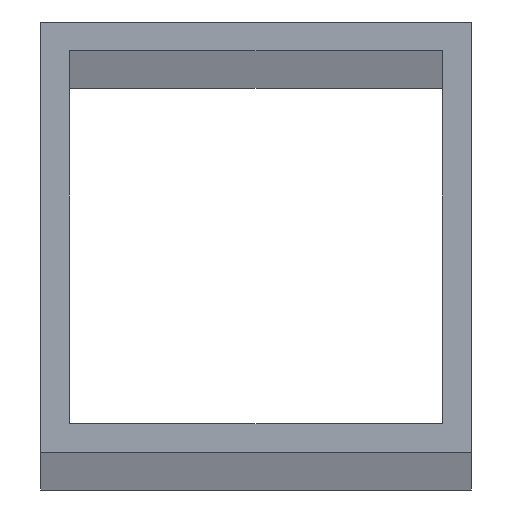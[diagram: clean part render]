
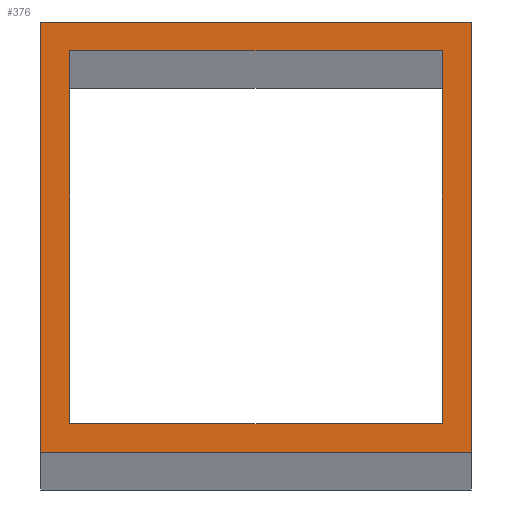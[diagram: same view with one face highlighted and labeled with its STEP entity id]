
A CAD part, top view. The second image highlights one B-rep face of the part: STEP entity #376.
In plain terms, the highlighted planar face has unit normal (0, 0, 1).
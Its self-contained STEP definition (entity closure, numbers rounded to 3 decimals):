
#32 = PLANE('',#33);
#33 = AXIS2_PLACEMENT_3D('',#34,#35,#36);
#34 = CARTESIAN_POINT('',(30.,-30.,0.));
#35 = DIRECTION('',(-0.,1.,-0.));
#36 = DIRECTION('',(1.,0.,0.));
#57 = VERTEX_POINT('',#58);
#58 = CARTESIAN_POINT('',(30.,-30.,3036.));
#72 = PLANE('',#73);
#73 = AXIS2_PLACEMENT_3D('',#74,#75,#76);
#74 = CARTESIAN_POINT('',(30.,30.,0.));
#75 = DIRECTION('',(-1.,-0.,-0.));
#76 = DIRECTION('',(0.,1.,0.));
#84 = EDGE_CURVE('',#85,#57,#87,.T.);
#85 = VERTEX_POINT('',#86);
#86 = CARTESIAN_POINT('',(-30.,-30.,3036.));
#87 = SURFACE_CURVE('',#88,(#92,#99),.PCURVE_S1.);
#88 = LINE('',#89,#90);
#89 = CARTESIAN_POINT('',(15.,-30.,3036.));
#90 = VECTOR('',#91,1.);
#91 = DIRECTION('',(1.,-0.,-0.));
#92 = PCURVE('',#32,#93);
#93 = DEFINITIONAL_REPRESENTATION('',(#94),#98);
#94 = LINE('',#95,#96);
#95 = CARTESIAN_POINT('',(-15.,-3036.));
#96 = VECTOR('',#97,1.);
#97 = DIRECTION('',(1.,-0.));
#98 = ( GEOMETRIC_REPRESENTATION_CONTEXT(2) 
PARAMETRIC_REPRESENTATION_CONTEXT() REPRESENTATION_CONTEXT('2D SPACE',''
  ) );
#99 = PCURVE('',#100,#105);
#100 = PLANE('',#101);
#101 = AXIS2_PLACEMENT_3D('',#102,#103,#104);
#102 = CARTESIAN_POINT('',(0.,0.,3036.));
#103 = DIRECTION('',(-0.,-0.,-1.));
#104 = DIRECTION('',(-1.,0.,0.));
#105 = DEFINITIONAL_REPRESENTATION('',(#106),#110);
#106 = LINE('',#107,#108);
#107 = CARTESIAN_POINT('',(-15.,-30.));
#108 = VECTOR('',#109,1.);
#109 = DIRECTION('',(-1.,0.));
#110 = ( GEOMETRIC_REPRESENTATION_CONTEXT(2) 
PARAMETRIC_REPRESENTATION_CONTEXT() REPRESENTATION_CONTEXT('2D SPACE',''
  ) );
#126 = PLANE('',#127);
#127 = AXIS2_PLACEMENT_3D('',#128,#129,#130);
#128 = CARTESIAN_POINT('',(-30.,-30.,0.));
#129 = DIRECTION('',(1.,-0.,-0.));
#130 = DIRECTION('',(0.,-1.,0.));
#202 = PLANE('',#203);
#203 = AXIS2_PLACEMENT_3D('',#204,#205,#206);
#204 = CARTESIAN_POINT('',(-30.,30.,0.));
#205 = DIRECTION('',(-0.,-1.,-0.));
#206 = DIRECTION('',(-1.,0.,0.));
#234 = PLANE('',#235);
#235 = AXIS2_PLACEMENT_3D('',#236,#237,#238);
#236 = CARTESIAN_POINT('',(26.,-26.,0.));
#237 = DIRECTION('',(-0.,1.,-0.));
#238 = DIRECTION('',(1.,0.,0.));
#262 = PLANE('',#263);
#263 = AXIS2_PLACEMENT_3D('',#264,#265,#266);
#264 = CARTESIAN_POINT('',(26.,26.,0.));
#265 = DIRECTION('',(-1.,-0.,-0.));
#266 = DIRECTION('',(0.,1.,0.));
#290 = PLANE('',#291);
#291 = AXIS2_PLACEMENT_3D('',#292,#293,#294);
#292 = CARTESIAN_POINT('',(-26.,26.,0.));
#293 = DIRECTION('',(-0.,-1.,-0.));
#294 = DIRECTION('',(-1.,0.,0.));
#316 = PLANE('',#317);
#317 = AXIS2_PLACEMENT_3D('',#318,#319,#320);
#318 = CARTESIAN_POINT('',(-26.,-26.,0.));
#319 = DIRECTION('',(1.,-0.,-0.));
#320 = DIRECTION('',(0.,-1.,0.));
#333 = EDGE_CURVE('',#334,#85,#336,.T.);
#334 = VERTEX_POINT('',#335);
#335 = CARTESIAN_POINT('',(-30.,30.,3036.));
#336 = SURFACE_CURVE('',#337,(#341,#348),.PCURVE_S1.);
#337 = LINE('',#338,#339);
#338 = CARTESIAN_POINT('',(-30.,-15.,3036.));
#339 = VECTOR('',#340,1.);
#340 = DIRECTION('',(0.,-1.,-0.));
#341 = PCURVE('',#126,#342);
#342 = DEFINITIONAL_REPRESENTATION('',(#343),#347);
#343 = LINE('',#344,#345);
#344 = CARTESIAN_POINT('',(-15.,-3036.));
#345 = VECTOR('',#346,1.);
#346 = DIRECTION('',(1.,-0.));
#347 = ( GEOMETRIC_REPRESENTATION_CONTEXT(2) 
PARAMETRIC_REPRESENTATION_CONTEXT() REPRESENTATION_CONTEXT('2D SPACE',''
  ) );
#348 = PCURVE('',#100,#349);
#349 = DEFINITIONAL_REPRESENTATION('',(#350),#354);
#350 = LINE('',#351,#352);
#351 = CARTESIAN_POINT('',(30.,-15.));
#352 = VECTOR('',#353,1.);
#353 = DIRECTION('',(-0.,-1.));
#354 = ( GEOMETRIC_REPRESENTATION_CONTEXT(2) 
PARAMETRIC_REPRESENTATION_CONTEXT() REPRESENTATION_CONTEXT('2D SPACE',''
  ) );
#376 = ADVANCED_FACE('',(#377,#425),#100,.F.);
#377 = FACE_BOUND('',#378,.T.);
#378 = EDGE_LOOP('',(#379,#380,#381,#404));
#379 = ORIENTED_EDGE('',*,*,#333,.T.);
#380 = ORIENTED_EDGE('',*,*,#84,.T.);
#381 = ORIENTED_EDGE('',*,*,#382,.T.);
#382 = EDGE_CURVE('',#57,#383,#385,.T.);
#383 = VERTEX_POINT('',#384);
#384 = CARTESIAN_POINT('',(30.,30.,3036.));
#385 = SURFACE_CURVE('',#386,(#390,#397),.PCURVE_S1.);
#386 = LINE('',#387,#388);
#387 = CARTESIAN_POINT('',(30.,15.,3036.));
#388 = VECTOR('',#389,1.);
#389 = DIRECTION('',(-0.,1.,-0.));
#390 = PCURVE('',#100,#391);
#391 = DEFINITIONAL_REPRESENTATION('',(#392),#396);
#392 = LINE('',#393,#394);
#393 = CARTESIAN_POINT('',(-30.,15.));
#394 = VECTOR('',#395,1.);
#395 = DIRECTION('',(-0.,1.));
#396 = ( GEOMETRIC_REPRESENTATION_CONTEXT(2) 
PARAMETRIC_REPRESENTATION_CONTEXT() REPRESENTATION_CONTEXT('2D SPACE',''
  ) );
#397 = PCURVE('',#72,#398);
#398 = DEFINITIONAL_REPRESENTATION('',(#399),#403);
#399 = LINE('',#400,#401);
#400 = CARTESIAN_POINT('',(-15.,-3036.));
#401 = VECTOR('',#402,1.);
#402 = DIRECTION('',(1.,-0.));
#403 = ( GEOMETRIC_REPRESENTATION_CONTEXT(2) 
PARAMETRIC_REPRESENTATION_CONTEXT() REPRESENTATION_CONTEXT('2D SPACE',''
  ) );
#404 = ORIENTED_EDGE('',*,*,#405,.T.);
#405 = EDGE_CURVE('',#383,#334,#406,.T.);
#406 = SURFACE_CURVE('',#407,(#411,#418),.PCURVE_S1.);
#407 = LINE('',#408,#409);
#408 = CARTESIAN_POINT('',(-15.,30.,3036.));
#409 = VECTOR('',#410,1.);
#410 = DIRECTION('',(-1.,-0.,-0.));
#411 = PCURVE('',#100,#412);
#412 = DEFINITIONAL_REPRESENTATION('',(#413),#417);
#413 = LINE('',#414,#415);
#414 = CARTESIAN_POINT('',(15.,30.));
#415 = VECTOR('',#416,1.);
#416 = DIRECTION('',(1.,-0.));
#417 = ( GEOMETRIC_REPRESENTATION_CONTEXT(2) 
PARAMETRIC_REPRESENTATION_CONTEXT() REPRESENTATION_CONTEXT('2D SPACE',''
  ) );
#418 = PCURVE('',#202,#419);
#419 = DEFINITIONAL_REPRESENTATION('',(#420),#424);
#420 = LINE('',#421,#422);
#421 = CARTESIAN_POINT('',(-15.,-3036.));
#422 = VECTOR('',#423,1.);
#423 = DIRECTION('',(1.,-0.));
#424 = ( GEOMETRIC_REPRESENTATION_CONTEXT(2) 
PARAMETRIC_REPRESENTATION_CONTEXT() REPRESENTATION_CONTEXT('2D SPACE',''
  ) );
#425 = FACE_BOUND('',#426,.T.);
#426 = EDGE_LOOP('',(#427,#452,#475,#498));
#427 = ORIENTED_EDGE('',*,*,#428,.F.);
#428 = EDGE_CURVE('',#429,#431,#433,.T.);
#429 = VERTEX_POINT('',#430);
#430 = CARTESIAN_POINT('',(-26.,-26.,3036.));
#431 = VERTEX_POINT('',#432);
#432 = CARTESIAN_POINT('',(26.,-26.,3036.));
#433 = SURFACE_CURVE('',#434,(#438,#445),.PCURVE_S1.);
#434 = LINE('',#435,#436);
#435 = CARTESIAN_POINT('',(13.,-26.,3036.));
#436 = VECTOR('',#437,1.);
#437 = DIRECTION('',(1.,-0.,-0.));
#438 = PCURVE('',#100,#439);
#439 = DEFINITIONAL_REPRESENTATION('',(#440),#444);
#440 = LINE('',#441,#442);
#441 = CARTESIAN_POINT('',(-13.,-26.));
#442 = VECTOR('',#443,1.);
#443 = DIRECTION('',(-1.,0.));
#444 = ( GEOMETRIC_REPRESENTATION_CONTEXT(2) 
PARAMETRIC_REPRESENTATION_CONTEXT() REPRESENTATION_CONTEXT('2D SPACE',''
  ) );
#445 = PCURVE('',#234,#446);
#446 = DEFINITIONAL_REPRESENTATION('',(#447),#451);
#447 = LINE('',#448,#449);
#448 = CARTESIAN_POINT('',(-13.,-3036.));
#449 = VECTOR('',#450,1.);
#450 = DIRECTION('',(1.,-0.));
#451 = ( GEOMETRIC_REPRESENTATION_CONTEXT(2) 
PARAMETRIC_REPRESENTATION_CONTEXT() REPRESENTATION_CONTEXT('2D SPACE',''
  ) );
#452 = ORIENTED_EDGE('',*,*,#453,.F.);
#453 = EDGE_CURVE('',#454,#429,#456,.T.);
#454 = VERTEX_POINT('',#455);
#455 = CARTESIAN_POINT('',(-26.,26.,3036.));
#456 = SURFACE_CURVE('',#457,(#461,#468),.PCURVE_S1.);
#457 = LINE('',#458,#459);
#458 = CARTESIAN_POINT('',(-26.,-13.,3036.));
#459 = VECTOR('',#460,1.);
#460 = DIRECTION('',(0.,-1.,-0.));
#461 = PCURVE('',#100,#462);
#462 = DEFINITIONAL_REPRESENTATION('',(#463),#467);
#463 = LINE('',#464,#465);
#464 = CARTESIAN_POINT('',(26.,-13.));
#465 = VECTOR('',#466,1.);
#466 = DIRECTION('',(-0.,-1.));
#467 = ( GEOMETRIC_REPRESENTATION_CONTEXT(2) 
PARAMETRIC_REPRESENTATION_CONTEXT() REPRESENTATION_CONTEXT('2D SPACE',''
  ) );
#468 = PCURVE('',#316,#469);
#469 = DEFINITIONAL_REPRESENTATION('',(#470),#474);
#470 = LINE('',#471,#472);
#471 = CARTESIAN_POINT('',(-13.,-3036.));
#472 = VECTOR('',#473,1.);
#473 = DIRECTION('',(1.,-0.));
#474 = ( GEOMETRIC_REPRESENTATION_CONTEXT(2) 
PARAMETRIC_REPRESENTATION_CONTEXT() REPRESENTATION_CONTEXT('2D SPACE',''
  ) );
#475 = ORIENTED_EDGE('',*,*,#476,.F.);
#476 = EDGE_CURVE('',#477,#454,#479,.T.);
#477 = VERTEX_POINT('',#478);
#478 = CARTESIAN_POINT('',(26.,26.,3036.));
#479 = SURFACE_CURVE('',#480,(#484,#491),.PCURVE_S1.);
#480 = LINE('',#481,#482);
#481 = CARTESIAN_POINT('',(-13.,26.,3036.));
#482 = VECTOR('',#483,1.);
#483 = DIRECTION('',(-1.,-0.,-0.));
#484 = PCURVE('',#100,#485);
#485 = DEFINITIONAL_REPRESENTATION('',(#486),#490);
#486 = LINE('',#487,#488);
#487 = CARTESIAN_POINT('',(13.,26.));
#488 = VECTOR('',#489,1.);
#489 = DIRECTION('',(1.,-0.));
#490 = ( GEOMETRIC_REPRESENTATION_CONTEXT(2) 
PARAMETRIC_REPRESENTATION_CONTEXT() REPRESENTATION_CONTEXT('2D SPACE',''
  ) );
#491 = PCURVE('',#290,#492);
#492 = DEFINITIONAL_REPRESENTATION('',(#493),#497);
#493 = LINE('',#494,#495);
#494 = CARTESIAN_POINT('',(-13.,-3036.));
#495 = VECTOR('',#496,1.);
#496 = DIRECTION('',(1.,-0.));
#497 = ( GEOMETRIC_REPRESENTATION_CONTEXT(2) 
PARAMETRIC_REPRESENTATION_CONTEXT() REPRESENTATION_CONTEXT('2D SPACE',''
  ) );
#498 = ORIENTED_EDGE('',*,*,#499,.F.);
#499 = EDGE_CURVE('',#431,#477,#500,.T.);
#500 = SURFACE_CURVE('',#501,(#505,#512),.PCURVE_S1.);
#501 = LINE('',#502,#503);
#502 = CARTESIAN_POINT('',(26.,13.,3036.));
#503 = VECTOR('',#504,1.);
#504 = DIRECTION('',(-0.,1.,-0.));
#505 = PCURVE('',#100,#506);
#506 = DEFINITIONAL_REPRESENTATION('',(#507),#511);
#507 = LINE('',#508,#509);
#508 = CARTESIAN_POINT('',(-26.,13.));
#509 = VECTOR('',#510,1.);
#510 = DIRECTION('',(-0.,1.));
#511 = ( GEOMETRIC_REPRESENTATION_CONTEXT(2) 
PARAMETRIC_REPRESENTATION_CONTEXT() REPRESENTATION_CONTEXT('2D SPACE',''
  ) );
#512 = PCURVE('',#262,#513);
#513 = DEFINITIONAL_REPRESENTATION('',(#514),#518);
#514 = LINE('',#515,#516);
#515 = CARTESIAN_POINT('',(-13.,-3036.));
#516 = VECTOR('',#517,1.);
#517 = DIRECTION('',(1.,-0.));
#518 = ( GEOMETRIC_REPRESENTATION_CONTEXT(2) 
PARAMETRIC_REPRESENTATION_CONTEXT() REPRESENTATION_CONTEXT('2D SPACE',''
  ) );
